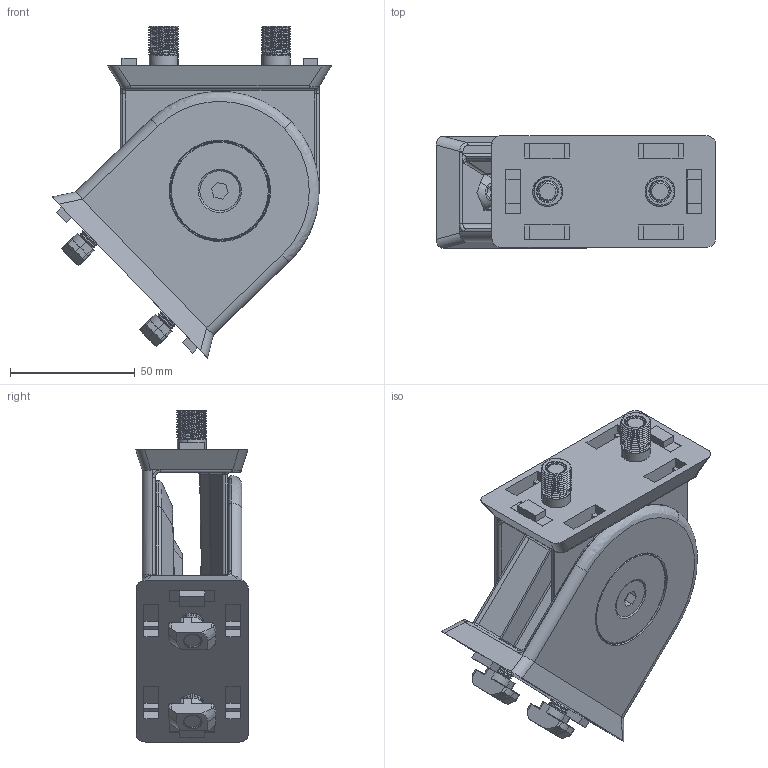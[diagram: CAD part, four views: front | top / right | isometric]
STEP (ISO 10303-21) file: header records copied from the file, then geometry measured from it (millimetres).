
FILE_DESCRIPTION (( 'STEP AP203' ), '1' );
FILE_NAME ('414030_Gelenk 45x90 Nut 10 mit Bef.-Satz.step', '2020-08-10T05:23:19', ( '' ), ( '' ), 'SwSTEP 2.0', 'SolidWorks 2017', '' );
FILE_SCHEMA (( 'CONFIG_CONTROL_DESIGN' ));
Length unit declared in the file: millimetre
Products named in the file (11): ISO 7380 - M8 x 16 - 16S_ISO 7380 - M8 x 16 - 16S; 999304 Gelenk 45x90 Nut 10_001; 343010 Gewindeeinsatz S12-M8; 999304 Gelenk 45x90 Nut 10_004; Nutzentrierung Nut 8-10 (groß); 414030_Gelenk 45x90 Nut 10 mit Bef.-Satz; 999304 Gelenk 45x90 Nut 10_002; 342040 Hammermutter Nut 10 M8; 999304 Gelenk 45x90 Nut 10; ISO 7380 - M8 x 20 - 20S_ISO 7380 - M8 x 20 - 20S; 999304 Gelenk 45x90 Nut 10_003
Assembly tree (21 placements, depth 3):
  414030_Gelenk 45x90 Nut 10 mit Bef.-Satz
    999304 Gelenk 45x90 Nut 10
      999304 Gelenk 45x90 Nut 10_003  x2
      999304 Gelenk 45x90 Nut 10_002  x2
      999304 Gelenk 45x90 Nut 10_004  x2
      999304 Gelenk 45x90 Nut 10_001  x2
    343010 Gewindeeinsatz S12-M8  x2
    342040 Hammermutter Nut 10 M8  x2
    ISO 7380 - M8 x 16 - 16S_ISO 7380 - M8 x 16 - 16S  x2
    ISO 7380 - M8 x 20 - 20S_ISO 7380 - M8 x 20 - 20S  x2
    Nutzentrierung Nut 8-10 (groß)  x4
Bounding box: 111.89 x 45 x 132.95 mm (x, y, z)
Volume: 190516.1 mm3; surface area: 94326.3 mm2
Topology: 20 solids, 20 shells, 2090 faces, 5700 edges, 3670 vertices
Faces by surface type: plane 872, cylinder 644, cone 302, bspline 248, torus 16, sphere 8
Entity records: 69012 total; most frequent: CARTESIAN_POINT 44032, ORIENTED_EDGE 5616, DIRECTION 4177, EDGE_CURVE 2808, VERTEX_POINT 1811, AXIS2_PLACEMENT_3D 1540, VECTOR 1097, LINE 1097
